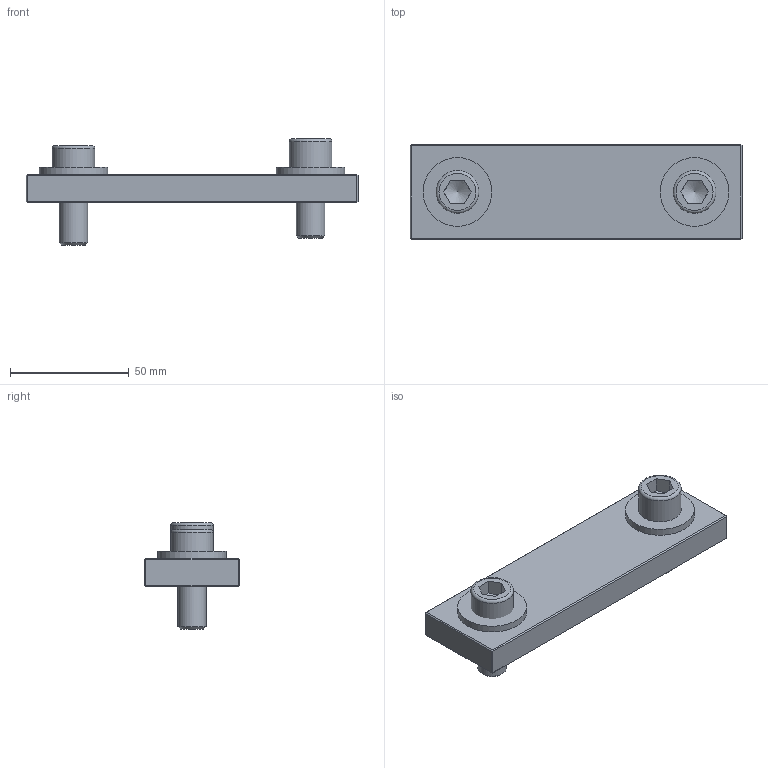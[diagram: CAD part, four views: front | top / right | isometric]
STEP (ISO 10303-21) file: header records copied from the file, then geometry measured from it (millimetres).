
FILE_DESCRIPTION((''),'2;1');
FILE_NAME('H:\3D-Entwürfe\Befestigungsteile\3D Modelle andere Formate\A\STEP\A110.stp','2010-03-08T11:32:44',('karin.hoppmann'),(''),'Autodesk Inventor 2009','Autodesk Inventor 2009','');
FILE_SCHEMA(('AUTOMOTIVE_DESIGN { 1 0 10303 214 1 1 1 1 }'));
Length unit declared in the file: millimetre
Products named in the file (4): A110; DIN 6796 12; DIN EN ISO 4762 M12 x 30
Assembly tree (5 placements, depth 2):
  A110
    A110
    DIN 6796 12  x2
    DIN EN ISO 4762 M12 x 30  x2
Bounding box: 140 x 40 x 44.9 mm (x, y, z)
Volume: 78618.3 mm3; surface area: 23586.3 mm2
Topology: 5 solids, 5 shells, 70 faces, 140 edges, 82 vertices
Faces by surface type: plane 48, cone 8, cylinder 8, bspline 4, torus 2
Full cylindrical faces by diameter (mm): 12 x2, 13 x2, 18 x2, 29 x2
Entity records: 1378 total; most frequent: CARTESIAN_POINT 290, DIRECTION 212, ORIENTED_EDGE 170, EDGE_CURVE 85, AXIS2_PLACEMENT_3D 76, EDGE_LOOP 72, VECTOR 60, LINE 60
